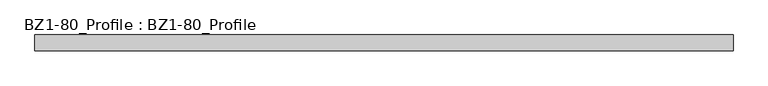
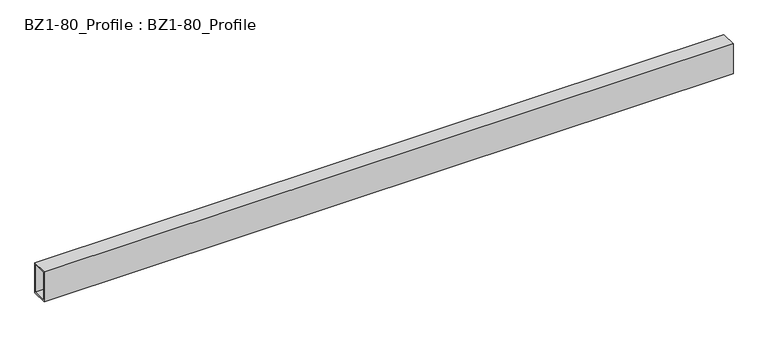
"""IFC4 building model written with IfcOpenShell, lengths in millimetres: beam geometry, BZ1-80_Profile : BZ1-80_Profile."""

from ifc_helpers import new_model, si_unit, frame, origin, place, context, project, spatial, polyline, outline, extrude, source, transform, mapped, element, save


def bz1_80_profile_bz1_80_profile_e5f705ac(model_context):
    return source(origin(), model_context, "Body", "SweptSolid", [
        extrude(outline(polyline([(-20.0, 40.0), (20.0, 40.0), (20.0, -40.0), (-20.0, -40.0), (-20.0, 40.0)]), holes=[polyline([(-16.0, 36.0), (-16.0, -36.0), (16.0, -36.0), (16.0, 36.0), (-16.0, 36.0)])]), frame((-871.0, 0.0, 0.0), z_axis=(1.0, 0.0, 0.0), x_axis=(0.0, 1.0, 0.0)), (0.0, 0.0, 1.0), 1742.0),
    ])


if __name__ == "__main__":
    model = new_model("IFC4")
    model_context = context("Model", 3, world=origin())
    ifc_project = project(units=[si_unit("LENGTHUNIT", "METRE", prefix="MILLI")], contexts=[model_context])
    site = spatial("IfcSite", under=ifc_project)
    building = spatial("IfcBuilding", under=site)
    placement = place(None, origin())
    bz1_80_profile_bz1_80_profile_shape = bz1_80_profile_bz1_80_profile_e5f705ac(model_context)
    element("IfcBeam", 1, ObjectType="BZ1-80_Profile : BZ1-80_Profile", at=placement, inside=building, context=model_context, shape_type="MappedRepresentation", body=[
        mapped(bz1_80_profile_bz1_80_profile_shape, transform((0.0, 0.0, 0.0), x_axis=(1.0, 0.0, 0.0), y_axis=(0.0, 1.0, 0.0), z_axis=(0.0, 0.0, 1.0))),
    ])
    save(model, "model.ifc")
